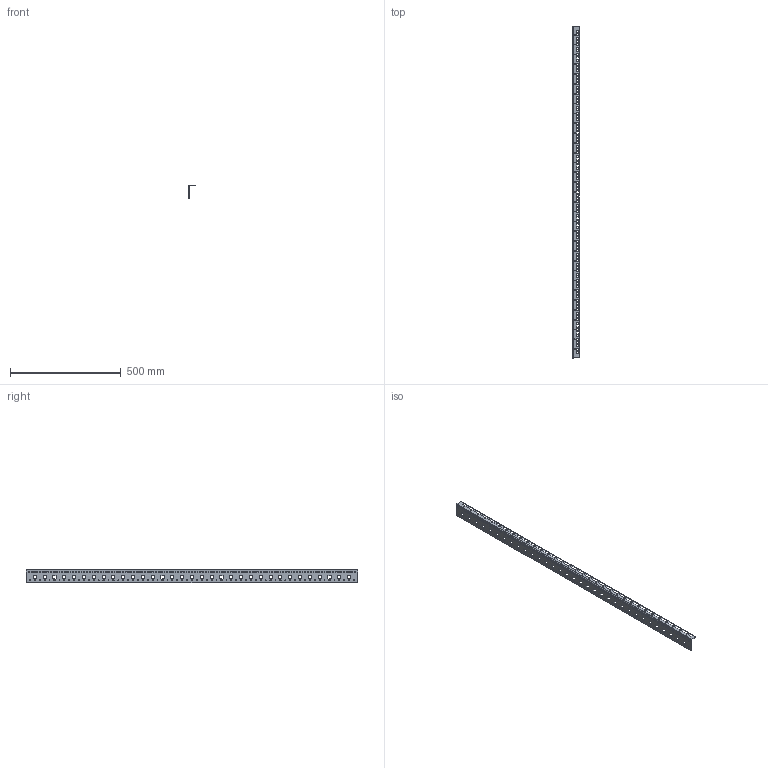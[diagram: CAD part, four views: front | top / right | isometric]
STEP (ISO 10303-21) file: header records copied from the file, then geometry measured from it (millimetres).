
FILE_DESCRIPTION (( 'STEP AP214' ), '1' );
FILE_NAME ('MRD 160 IT 33U Ðåéêà âåðòèêàëüíàÿ 19''''.STEP', '2023-11-18T07:43:09', ( '' ), ( '' ), 'SwSTEP 2.0', 'SolidWorks 2019', '' );
FILE_SCHEMA (( 'AUTOMOTIVE_DESIGN' ));
Length unit declared in the file: millimetre
Products named in the file (1): MRD 160 IT 33U Ðåéêà âåðòèêàëüíàÿ 19''''
Bounding box: 31 x 1502 x 61.5 mm (x, y, z)
Volume: 230353.2 mm3; surface area: 254047.4 mm2
Topology: 1 solids, 1 shells, 1149 faces, 3433 edges, 2286 vertices
Faces by surface type: plane 639, cylinder 510
Entity records: 40261 total; most frequent: CARTESIAN_POINT 6869, ORIENTED_EDGE 6866, DIRECTION 6753, EDGE_CURVE 3433, LINE 2413, VECTOR 2413, VERTEX_POINT 2286, AXIS2_PLACEMENT_3D 2170
